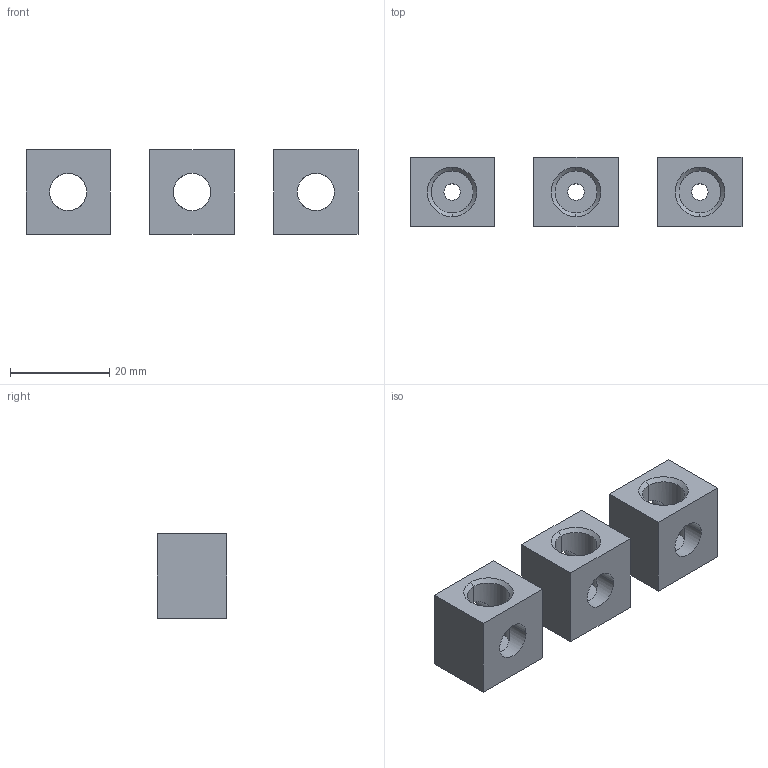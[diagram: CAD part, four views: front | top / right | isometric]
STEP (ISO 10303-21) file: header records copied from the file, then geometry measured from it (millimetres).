
FILE_DESCRIPTION (( 'STEP AP214' ), '1' );
FILE_NAME ('OptiMat E100 êîëîäêè 16-50 âåðõíèå.STEP', '2023-11-09T11:52:40', ( '' ), ( '' ), 'SwSTEP 2.0', 'SolidWorks 2018', '' );
FILE_SCHEMA (( 'AUTOMOTIVE_DESIGN' ));
Length unit declared in the file: millimetre
Products named in the file (3): OptiMat E100 êîëîäêè 16-50 âåðõíèå; E100 16-50   Êîëîäêà ÃÆÈÊ.687229.008_ƒ†ˆŠ.687229.008; Êîëîäêà ÃÆÈÊ.731173.008_ƒ†ˆŠ.731173.008
Assembly tree (4 placements, depth 3):
  OptiMat E100 êîëîäêè 16-50 âåðõíèå
    E100 16-50   Êîëîäêà ÃÆÈÊ.687229.008_ƒ†ˆŠ.687229.008  x3
      Êîëîäêà ÃÆÈÊ.731173.008_ƒ†ˆŠ.731173.008
Bounding box: 67 x 14 x 17 mm (x, y, z)
Volume: 9000.1 mm3; surface area: 5608.8 mm2
Topology: 3 solids, 3 shells, 57 faces, 150 edges, 96 vertices
Faces by surface type: cylinder 24, plane 21, cone 12
Entity records: 896 total; most frequent: CARTESIAN_POINT 269, DIRECTION 112, ORIENTED_EDGE 100, EDGE_CURVE 50, AXIS2_PLACEMENT_3D 43, VERTEX_POINT 32, VECTOR 26, LINE 26
